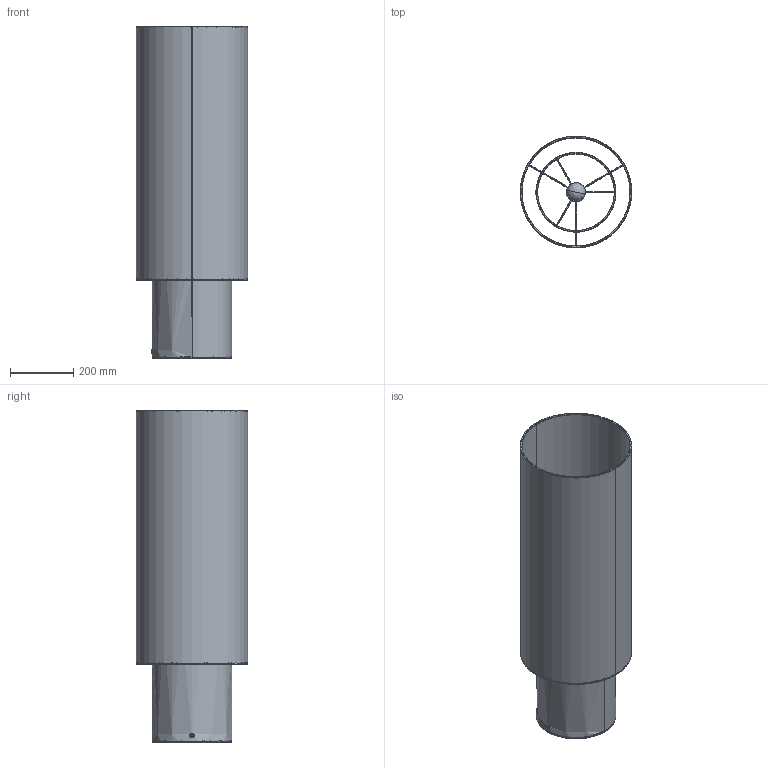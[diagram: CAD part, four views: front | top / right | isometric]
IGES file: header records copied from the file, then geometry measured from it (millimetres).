
Start section: SolidWorks IGES file using analytic representation for surfaces
Global section: file name: C:\Users\anna.bielnik\Desktop\santana podlogoa.IGS; native system: SolidWorks 2025; preprocessor: SolidWorks 2025; author: anna.bielnik; date: 260415.141627; units: millimetre
Bounding box: 350.99 x 350.99 x 1046 mm (x, y, z)
Surface area: 2316051.6 mm2 (no closed solid volume)
Topology: 0 solids, 0 shells, 198 faces, 2764 edges, 2762 vertices
Faces by surface type: bspline 114, revolution 84
